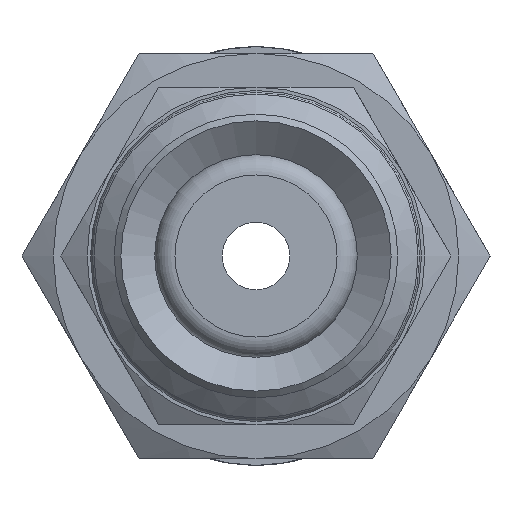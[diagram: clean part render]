
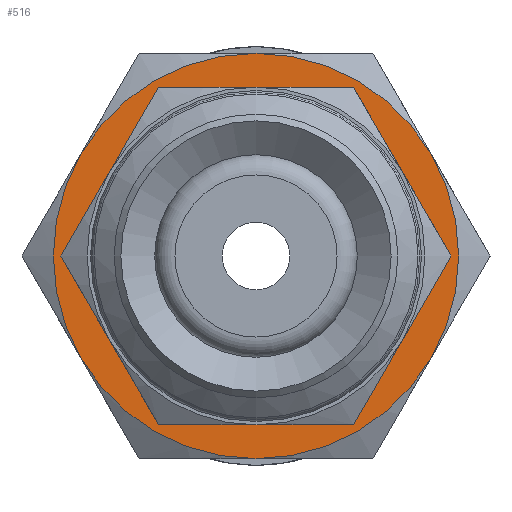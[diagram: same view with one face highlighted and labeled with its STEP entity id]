
A CAD part, front view. The second image highlights one B-rep face of the part: STEP entity #516.
In plain terms, the highlighted planar face has unit normal (0, -1, 0) as drawn and (-1, 0, 0) by its records, which use the part's own axes.
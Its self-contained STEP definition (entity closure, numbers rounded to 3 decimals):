
#516=ADVANCED_FACE('',(#746,#747),#748,.F.);
#746=FACE_BOUND('',#1110,.T.);
#747=FACE_OUTER_BOUND('',#1111,.T.);
#748=PLANE('',#1112);
#1110=EDGE_LOOP('',(#1959));
#1111=EDGE_LOOP('',(#1960,#1961,#1962,#1963,#1964,#1965));
#1112=AXIS2_PLACEMENT_3D('',#1966,#1967,#1968);
#1959=ORIENTED_EDGE('',*,*,#2621,.T.);
#1960=ORIENTED_EDGE('',*,*,#2584,.F.);
#1961=ORIENTED_EDGE('',*,*,#2601,.F.);
#1962=ORIENTED_EDGE('',*,*,#2613,.F.);
#1963=ORIENTED_EDGE('',*,*,#2622,.F.);
#1964=ORIENTED_EDGE('',*,*,#2620,.F.);
#1965=ORIENTED_EDGE('',*,*,#2605,.F.);
#1966=CARTESIAN_POINT('',(0.,0.0,0.0));
#1967=DIRECTION('',(1.0,0.0,0.0));
#1968=DIRECTION('',(0.0,1.0,0.0));
#2584=EDGE_CURVE('',#2905,#2907,#2908,.T.);
#2601=EDGE_CURVE('',#2934,#2905,#2937,.T.);
#2605=EDGE_CURVE('',#2907,#2943,#2944,.T.);
#2613=EDGE_CURVE('',#2956,#2934,#2957,.T.);
#2620=EDGE_CURVE('',#2943,#2964,#2966,.T.);
#2621=EDGE_CURVE('',#2967,#2967,#2968,.T.);
#2622=EDGE_CURVE('',#2964,#2956,#2969,.T.);
#2905=VERTEX_POINT('',#3429);
#2907=VERTEX_POINT('',#3441);
#2908=CIRCLE('',#3442,6.0);
#2934=VERTEX_POINT('',#3552);
#2937=CIRCLE('',#3575,6.0);
#2943=VERTEX_POINT('',#3591);
#2944=CIRCLE('',#3592,6.0);
#2956=VERTEX_POINT('',#3654);
#2957=CIRCLE('',#3655,6.0);
#2964=VERTEX_POINT('',#3693);
#2966=CIRCLE('',#3705,6.0);
#2967=VERTEX_POINT('',#3706);
#2968=CIRCLE('',#3707,4.0);
#2969=CIRCLE('',#3708,6.0);
#3429=CARTESIAN_POINT('',(0.,5.196,-3.0));
#3441=CARTESIAN_POINT('',(0.,5.196,3.0));
#3442=AXIS2_PLACEMENT_3D('',#4429,#4430,#4431);
#3552=CARTESIAN_POINT('',(0.,0.0,-6.0));
#3575=AXIS2_PLACEMENT_3D('',#4442,#4443,#4444);
#3591=CARTESIAN_POINT('',(0.,0.0,6.0));
#3592=AXIS2_PLACEMENT_3D('',#4451,#4452,#4453);
#3654=CARTESIAN_POINT('',(0.,-5.196,-3.0));
#3655=AXIS2_PLACEMENT_3D('',#4460,#4461,#4462);
#3693=CARTESIAN_POINT('',(0.,-5.196,3.0));
#3705=AXIS2_PLACEMENT_3D('',#4467,#4468,#4469);
#3706=CARTESIAN_POINT('',(0.,0.0,-4.0));
#3707=AXIS2_PLACEMENT_3D('',#4470,#4471,#4472);
#3708=AXIS2_PLACEMENT_3D('',#4473,#4474,#4475);
#4429=CARTESIAN_POINT('',(0.,0.0,0.0));
#4430=DIRECTION('',(1.0,0.0,0.0));
#4431=DIRECTION('',(0.0,0.0,-1.0));
#4442=CARTESIAN_POINT('',(0.,0.0,0.0));
#4443=DIRECTION('',(1.0,0.0,0.0));
#4444=DIRECTION('',(0.0,0.0,-1.0));
#4451=CARTESIAN_POINT('',(0.,0.0,0.0));
#4452=DIRECTION('',(1.0,0.0,0.0));
#4453=DIRECTION('',(0.0,0.0,-1.0));
#4460=CARTESIAN_POINT('',(0.,0.0,0.0));
#4461=DIRECTION('',(1.0,0.0,0.0));
#4462=DIRECTION('',(0.0,0.0,-1.0));
#4467=CARTESIAN_POINT('',(0.,0.0,0.0));
#4468=DIRECTION('',(1.0,0.0,0.0));
#4469=DIRECTION('',(0.0,0.0,-1.0));
#4470=CARTESIAN_POINT('',(0.,0.0,0.0));
#4471=DIRECTION('',(1.0,0.0,0.0));
#4472=DIRECTION('',(0.0,0.0,-1.0));
#4473=CARTESIAN_POINT('',(0.,0.0,0.0));
#4474=DIRECTION('',(1.0,0.0,0.0));
#4475=DIRECTION('',(0.0,0.0,-1.0));
